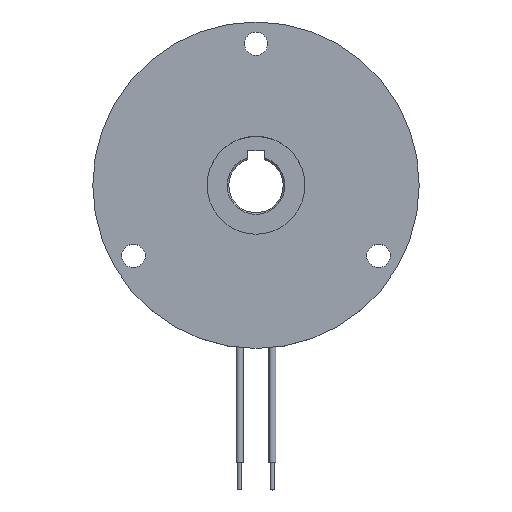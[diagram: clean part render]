
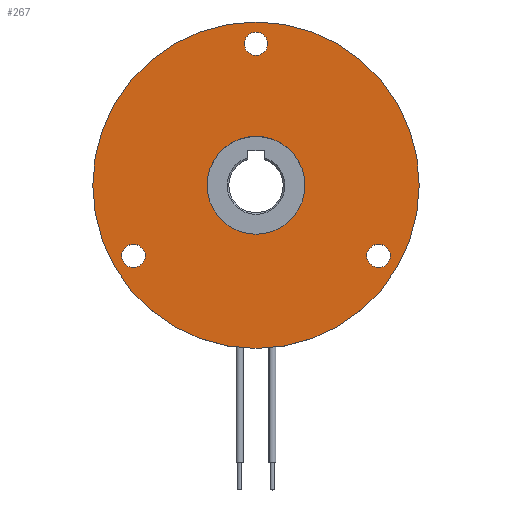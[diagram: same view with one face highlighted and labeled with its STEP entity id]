
A CAD part, top view. The second image highlights one B-rep face of the part: STEP entity #267.
In plain terms, the highlighted planar face has unit normal (0, 0, 1).
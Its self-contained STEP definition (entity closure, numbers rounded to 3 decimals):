
#36 = ORIENTED_EDGE ( 'NONE', *, *, #4123, .T. ) ;
#267 = ADVANCED_FACE ( 'NONE', ( #6527, #4248, #1256, #4769, #5427 ), #6643, .F. ) ;
#286 = CIRCLE ( 'NONE', #926, 9. ) ;
#290 = CARTESIAN_POINT ( 'NONE',  ( -30., 0., 0. ) ) ;
#335 = DIRECTION ( 'NONE',  ( -1., 0., 0. ) ) ;
#430 = EDGE_CURVE ( 'NONE', #5204, #7045, #3687, .T. ) ;
#461 = CARTESIAN_POINT ( 'NONE',  ( 0., 26., 0. ) ) ;
#486 = DIRECTION ( 'NONE',  ( -1., 0., 0. ) ) ;
#509 = AXIS2_PLACEMENT_3D ( 'NONE', #5812, #1194, #1746 ) ;
#510 = EDGE_CURVE ( 'NONE', #3599, #6901, #4070, .T. ) ;
#759 = CARTESIAN_POINT ( 'NONE',  ( 30., 0., 0. ) ) ;
#815 = DIRECTION ( 'NONE',  ( 0., 0., -1. ) ) ;
#926 = AXIS2_PLACEMENT_3D ( 'NONE', #2200, #2652, #3930 ) ;
#943 = CIRCLE ( 'NONE', #2417, 30. ) ;
#1047 = EDGE_LOOP ( 'NONE', ( #2348, #1849 ) ) ;
#1097 = AXIS2_PLACEMENT_3D ( 'NONE', #2424, #7270, #5973 ) ;
#1143 = CIRCLE ( 'NONE', #509, 2.15 ) ;
#1194 = DIRECTION ( 'NONE',  ( 0., 0., -1. ) ) ;
#1256 = FACE_BOUND ( 'NONE', #6924, .T. ) ;
#1550 = DIRECTION ( 'NONE',  ( 0., 0., -1. ) ) ;
#1746 = DIRECTION ( 'NONE',  ( -1., 0., 0. ) ) ;
#1849 = ORIENTED_EDGE ( 'NONE', *, *, #5825, .T. ) ;
#1902 = ORIENTED_EDGE ( 'NONE', *, *, #7551, .T. ) ;
#1957 = CARTESIAN_POINT ( 'NONE',  ( 24.667, -13., 0. ) ) ;
#1976 = EDGE_LOOP ( 'NONE', ( #6488, #3559 ) ) ;
#2023 = CARTESIAN_POINT ( 'NONE',  ( -9., 0., 0. ) ) ;
#2155 = DIRECTION ( 'NONE',  ( -1., 0., 0. ) ) ;
#2200 = CARTESIAN_POINT ( 'NONE',  ( 0., 0., 0. ) ) ;
#2348 = ORIENTED_EDGE ( 'NONE', *, *, #430, .T. ) ;
#2417 = AXIS2_PLACEMENT_3D ( 'NONE', #2715, #1550, #6266 ) ;
#2424 = CARTESIAN_POINT ( 'NONE',  ( 0., 30., 0. ) ) ;
#2571 = CARTESIAN_POINT ( 'NONE',  ( -24.667, -13., 0. ) ) ;
#2652 = DIRECTION ( 'NONE',  ( 0., 0., -1. ) ) ;
#2668 = AXIS2_PLACEMENT_3D ( 'NONE', #461, #815, #5032 ) ;
#2670 = ORIENTED_EDGE ( 'NONE', *, *, #2730, .T. ) ;
#2715 = CARTESIAN_POINT ( 'NONE',  ( 0., 0., 0. ) ) ;
#2730 = EDGE_CURVE ( 'NONE', #5614, #6142, #4151, .T. ) ;
#2737 = ORIENTED_EDGE ( 'NONE', *, *, #3616, .F. ) ;
#2743 = CARTESIAN_POINT ( 'NONE',  ( 20.367, -13., 0. ) ) ;
#2884 = CIRCLE ( 'NONE', #7017, 9. ) ;
#3090 = CARTESIAN_POINT ( 'NONE',  ( 2.15, 26., 0. ) ) ;
#3123 = CARTESIAN_POINT ( 'NONE',  ( -20.367, -13., 0. ) ) ;
#3166 = DIRECTION ( 'NONE',  ( 0., 0., -1. ) ) ;
#3349 = AXIS2_PLACEMENT_3D ( 'NONE', #7477, #3166, #5049 ) ;
#3419 = DIRECTION ( 'NONE',  ( 0., 0., -1. ) ) ;
#3420 = CARTESIAN_POINT ( 'NONE',  ( 22.517, -13., 0. ) ) ;
#3559 = ORIENTED_EDGE ( 'NONE', *, *, #3847, .T. ) ;
#3599 = VERTEX_POINT ( 'NONE', #2743 ) ;
#3616 = EDGE_CURVE ( 'NONE', #7717, #4465, #4649, .T. ) ;
#3687 = CIRCLE ( 'NONE', #3349, 2.15 ) ;
#3757 = AXIS2_PLACEMENT_3D ( 'NONE', #6958, #3419, #5169 ) ;
#3802 = EDGE_LOOP ( 'NONE', ( #2737, #5543 ) ) ;
#3847 = EDGE_CURVE ( 'NONE', #7332, #5649, #286, .T. ) ;
#3930 = DIRECTION ( 'NONE',  ( -1., 0., 0. ) ) ;
#4027 = CARTESIAN_POINT ( 'NONE',  ( 0., 26., 0. ) ) ;
#4070 = CIRCLE ( 'NONE', #5213, 2.15 ) ;
#4123 = EDGE_CURVE ( 'NONE', #6901, #3599, #4296, .T. ) ;
#4134 = CARTESIAN_POINT ( 'NONE',  ( 9., 0., 0. ) ) ;
#4151 = CIRCLE ( 'NONE', #2668, 2.15 ) ;
#4248 = FACE_BOUND ( 'NONE', #1047, .T. ) ;
#4296 = CIRCLE ( 'NONE', #4424, 2.15 ) ;
#4424 = AXIS2_PLACEMENT_3D ( 'NONE', #5111, #4507, #335 ) ;
#4465 = VERTEX_POINT ( 'NONE', #759 ) ;
#4507 = DIRECTION ( 'NONE',  ( 0., 0., -1. ) ) ;
#4649 = CIRCLE ( 'NONE', #3757, 30. ) ;
#4769 = FACE_OUTER_BOUND ( 'NONE', #3802, .T. ) ;
#4845 = EDGE_CURVE ( 'NONE', #4465, #7717, #943, .T. ) ;
#5032 = DIRECTION ( 'NONE',  ( -1., 0., 0. ) ) ;
#5049 = DIRECTION ( 'NONE',  ( -1., 0., 0. ) ) ;
#5111 = CARTESIAN_POINT ( 'NONE',  ( 22.517, -13., 0. ) ) ;
#5119 = CARTESIAN_POINT ( 'NONE',  ( 0., 0., 0. ) ) ;
#5169 = DIRECTION ( 'NONE',  ( -1., 0., 0. ) ) ;
#5204 = VERTEX_POINT ( 'NONE', #2571 ) ;
#5213 = AXIS2_PLACEMENT_3D ( 'NONE', #3420, #7347, #6066 ) ;
#5326 = EDGE_CURVE ( 'NONE', #5649, #7332, #2884, .T. ) ;
#5427 = FACE_BOUND ( 'NONE', #1976, .T. ) ;
#5543 = ORIENTED_EDGE ( 'NONE', *, *, #4845, .F. ) ;
#5614 = VERTEX_POINT ( 'NONE', #6364 ) ;
#5638 = CIRCLE ( 'NONE', #5644, 2.15 ) ;
#5644 = AXIS2_PLACEMENT_3D ( 'NONE', #4027, #5844, #486 ) ;
#5649 = VERTEX_POINT ( 'NONE', #2023 ) ;
#5812 = CARTESIAN_POINT ( 'NONE',  ( -22.517, -13., 0. ) ) ;
#5825 = EDGE_CURVE ( 'NONE', #7045, #5204, #1143, .T. ) ;
#5844 = DIRECTION ( 'NONE',  ( 0., 0., -1. ) ) ;
#5973 = DIRECTION ( 'NONE',  ( -1., 0., 0. ) ) ;
#6066 = DIRECTION ( 'NONE',  ( -1., 0., 0. ) ) ;
#6142 = VERTEX_POINT ( 'NONE', #3090 ) ;
#6261 = ORIENTED_EDGE ( 'NONE', *, *, #510, .T. ) ;
#6266 = DIRECTION ( 'NONE',  ( -1., 0., 0. ) ) ;
#6364 = CARTESIAN_POINT ( 'NONE',  ( -2.15, 26., 0. ) ) ;
#6488 = ORIENTED_EDGE ( 'NONE', *, *, #5326, .T. ) ;
#6527 = FACE_BOUND ( 'NONE', #7271, .T. ) ;
#6643 = PLANE ( 'NONE',  #1097 ) ;
#6901 = VERTEX_POINT ( 'NONE', #1957 ) ;
#6924 = EDGE_LOOP ( 'NONE', ( #2670, #1902 ) ) ;
#6958 = CARTESIAN_POINT ( 'NONE',  ( 0., 0., 0. ) ) ;
#7017 = AXIS2_PLACEMENT_3D ( 'NONE', #5119, #7502, #2155 ) ;
#7045 = VERTEX_POINT ( 'NONE', #3123 ) ;
#7270 = DIRECTION ( 'NONE',  ( 0., 0., -1. ) ) ;
#7271 = EDGE_LOOP ( 'NONE', ( #6261, #36 ) ) ;
#7332 = VERTEX_POINT ( 'NONE', #4134 ) ;
#7347 = DIRECTION ( 'NONE',  ( 0., 0., -1. ) ) ;
#7477 = CARTESIAN_POINT ( 'NONE',  ( -22.517, -13., 0. ) ) ;
#7502 = DIRECTION ( 'NONE',  ( 0., 0., -1. ) ) ;
#7551 = EDGE_CURVE ( 'NONE', #6142, #5614, #5638, .T. ) ;
#7717 = VERTEX_POINT ( 'NONE', #290 ) ;
